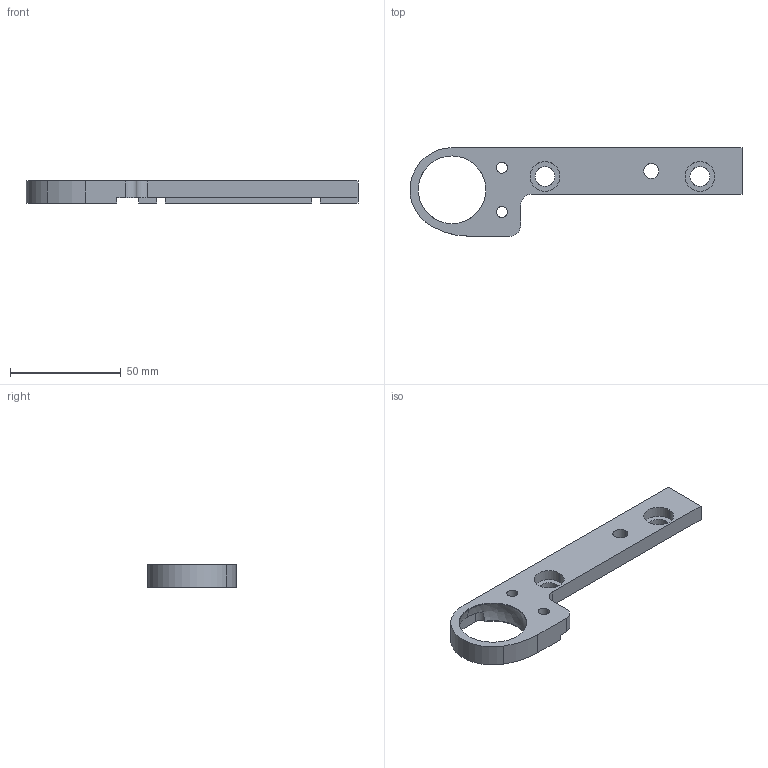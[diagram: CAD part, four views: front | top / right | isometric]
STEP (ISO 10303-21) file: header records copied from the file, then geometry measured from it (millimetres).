
FILE_DESCRIPTION (( 'STEP AP203' ), '1' );
FILE_NAME ('084.801.027 dx.STEP', '2013-01-29T09:35:58', ( 'Alusic' ), ( 'Alusic' ), 'SwSTEP 2.0', 'SolidWorks 2011', '' );
FILE_SCHEMA (( 'CONFIG_CONTROL_DESIGN' ));
Length unit declared in the file: millimetre
Products named in the file (1): 084.801.027 dx
Bounding box: 150 x 40 x 10 mm (x, y, z)
Volume: 24311.7 mm3; surface area: 11571.9 mm2
Topology: 1 solids, 1 shells, 61 faces, 192 edges, 128 vertices
Faces by surface type: plane 32, cylinder 27, sphere 2
Entity records: 2233 total; most frequent: CARTESIAN_POINT 392, DIRECTION 386, ORIENTED_EDGE 372, EDGE_CURVE 186, AXIS2_PLACEMENT_3D 142, VERTEX_POINT 124, LINE 102, VECTOR 102
